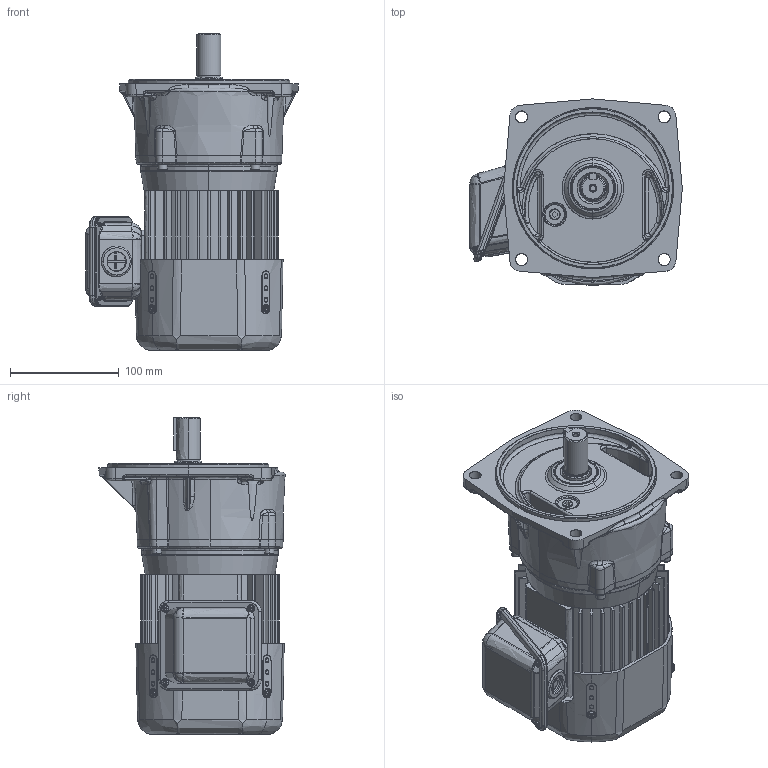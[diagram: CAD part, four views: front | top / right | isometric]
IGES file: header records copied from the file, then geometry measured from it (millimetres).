
Start section: SolidWorks IGES file using analytic representation for surfaces
Global section: file name: \\100.100.100.8\1_共有作業フォルダ\1-5_３Ｄデータ\solidworks\personal-folder\H.Nagayama\SGP1外形\P1(3D)\igs\TMFB2-01-(60~200).IGS; native system: SolidWorks 2018; preprocessor: SolidWorks 2018; author: sigma-giken; date: 200508.141929; units: millimetre
Bounding box: 195.03 x 170.86 x 290.6 mm (x, y, z)
Surface area: 411566.6 mm2 (no closed solid volume)
Topology: 0 solids, 0 shells, 1776 faces, 22915 edges, 22891 vertices
Faces by surface type: bspline 961, revolution 815
